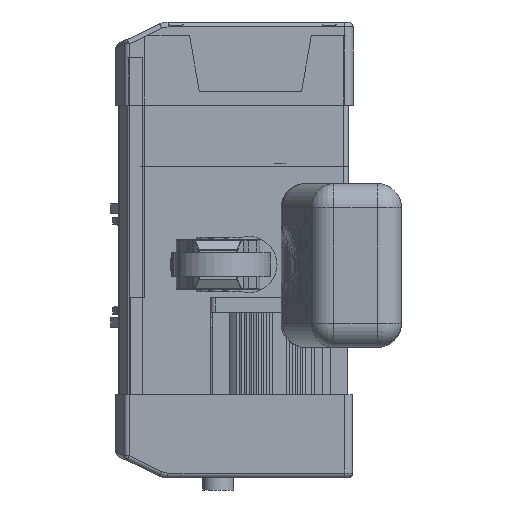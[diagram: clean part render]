
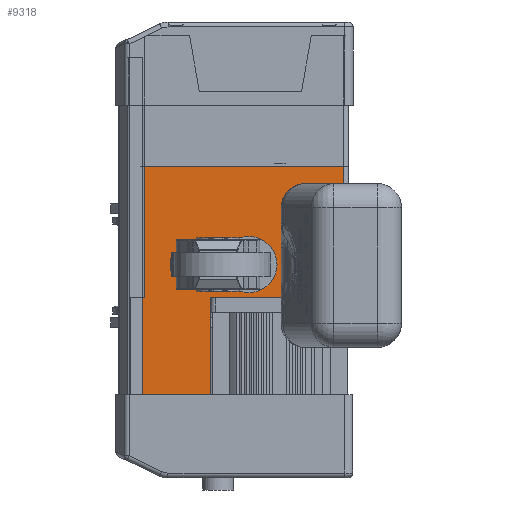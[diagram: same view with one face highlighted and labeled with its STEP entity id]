
A CAD part, front view. The second image highlights one B-rep face of the part: STEP entity #9318.
In plain terms, the highlighted planar face has unit normal (0, -1, 0).
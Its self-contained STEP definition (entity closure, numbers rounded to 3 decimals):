
#905=LINE('',#51660,#3531);
#1083=LINE('',#52080,#3709);
#1596=LINE('',#53557,#4222);
#2062=LINE('',#55354,#4688);
#2138=LINE('',#55659,#4764);
#2194=LINE('',#55955,#4820);
#2195=LINE('',#55956,#4821);
#3531=VECTOR('',#38296,1.);
#3709=VECTOR('',#38540,1.);
#4222=VECTOR('',#39995,1.);
#4688=VECTOR('',#41537,1.);
#4764=VECTOR('',#41835,1.);
#4820=VECTOR('',#42007,1.);
#4821=VECTOR('',#42008,1.);
#5971=B_SPLINE_CURVE_WITH_KNOTS('',3,(#51648,#51649,#51650,#51651),
 .UNSPECIFIED.,.F.,.F.,(4,4),(0.,1.),.UNSPECIFIED.);
#6042=B_SPLINE_CURVE_WITH_KNOTS('',3,(#55921,#55922,#55923,#55924),
 .UNSPECIFIED.,.F.,.F.,(4,4),(0.,1.),.UNSPECIFIED.);
#6044=B_SPLINE_CURVE_WITH_KNOTS('',3,(#55932,#55933,#55934,#55935),
 .UNSPECIFIED.,.F.,.F.,(4,4),(0.,1.),.UNSPECIFIED.);
#9318=ADVANCED_FACE('',(#12070),#10786,.T.);
#10786=PLANE('',#35305);
#12070=FACE_OUTER_BOUND('',#14113,.T.);
#14113=EDGE_LOOP('',(#20532,#20533,#20534,#20535,#20536,#20537,#20538,#20539,
#20540,#20541));
#20532=ORIENTED_EDGE('',*,*,#30121,.T.);
#20533=ORIENTED_EDGE('',*,*,#29253,.F.);
#20534=ORIENTED_EDGE('',*,*,#30203,.T.);
#20535=ORIENTED_EDGE('',*,*,#28580,.T.);
#20536=ORIENTED_EDGE('',*,*,#28370,.T.);
#20537=ORIENTED_EDGE('',*,*,#30204,.F.);
#20538=ORIENTED_EDGE('',*,*,#28365,.T.);
#20539=ORIENTED_EDGE('',*,*,#30191,.T.);
#20540=ORIENTED_EDGE('',*,*,#30194,.T.);
#20541=ORIENTED_EDGE('',*,*,#29986,.T.);
#25010=VERTEX_POINT('',#51634);
#25013=VERTEX_POINT('',#51647);
#25016=VERTEX_POINT('',#51659);
#25017=VERTEX_POINT('',#51661);
#25226=VERTEX_POINT('',#52081);
#25591=VERTEX_POINT('',#53558);
#25592=VERTEX_POINT('',#53559);
#26074=VERTEX_POINT('',#55347);
#26077=VERTEX_POINT('',#55353);
#26218=VERTEX_POINT('',#55925);
#28365=EDGE_CURVE('',#25010,#25013,#5971,.T.);
#28370=EDGE_CURVE('',#25017,#25016,#905,.T.);
#28580=EDGE_CURVE('',#25226,#25017,#1083,.T.);
#29253=EDGE_CURVE('',#25591,#25592,#1596,.T.);
#29986=EDGE_CURVE('',#26074,#26077,#2062,.T.);
#30121=EDGE_CURVE('',#26077,#25592,#2138,.T.);
#30191=EDGE_CURVE('',#25013,#26218,#6042,.T.);
#30194=EDGE_CURVE('',#26218,#26074,#6044,.T.);
#30203=EDGE_CURVE('',#25591,#25226,#2194,.T.);
#30204=EDGE_CURVE('',#25010,#25016,#2195,.T.);
#35305=AXIS2_PLACEMENT_3D('',#55957,#42009,#42010);
#38296=DIRECTION('',(0.,0.,1.));
#38540=DIRECTION('',(1.,0.,0.));
#39995=DIRECTION('',(1.,0.,0.));
#41537=DIRECTION('',(-1.,0.,0.));
#41835=DIRECTION('',(0.,0.,-1.));
#42007=DIRECTION('',(0.,0.,-1.));
#42008=DIRECTION('',(-1.,0.,0.));
#42009=DIRECTION('',(0.,-1.,0.));
#42010=DIRECTION('',(-1.,0.,0.));
#51634=CARTESIAN_POINT('',(-65.001,-738.742,245.927));
#51647=CARTESIAN_POINT('',(65.,-738.742,245.927));
#51648=CARTESIAN_POINT('',(-65.001,-738.742,245.927));
#51649=CARTESIAN_POINT('',(-21.667,-738.742,245.927));
#51650=CARTESIAN_POINT('',(21.666,-738.742,245.927));
#51651=CARTESIAN_POINT('',(65.,-738.742,245.927));
#51659=CARTESIAN_POINT('',(-70.,-738.742,245.927));
#51660=CARTESIAN_POINT('',(-70.,-738.742,186.927));
#51661=CARTESIAN_POINT('',(-70.,-738.742,147.427));
#52080=CARTESIAN_POINT('',(65.,-738.742,147.427));
#52081=CARTESIAN_POINT('',(-139.392,-738.742,147.427));
#53557=CARTESIAN_POINT('',(65.,-738.742,245.927));
#53558=CARTESIAN_POINT('',(-139.392,-738.742,245.927));
#53559=CARTESIAN_POINT('',(-137.,-738.742,245.927));
#55347=CARTESIAN_POINT('',(65.,-738.742,378.927));
#55353=CARTESIAN_POINT('',(-137.,-738.742,378.927));
#55354=CARTESIAN_POINT('',(-579.905,-738.742,378.927));
#55659=CARTESIAN_POINT('',(-137.,-738.742,801.877));
#55921=CARTESIAN_POINT('',(65.,-738.742,245.927));
#55922=CARTESIAN_POINT('',(65.,-738.742,280.927));
#55923=CARTESIAN_POINT('',(65.,-738.742,315.927));
#55924=CARTESIAN_POINT('',(65.,-738.742,350.927));
#55925=CARTESIAN_POINT('',(65.,-738.742,350.927));
#55932=CARTESIAN_POINT('',(65.,-738.742,350.927));
#55933=CARTESIAN_POINT('',(65.,-738.742,360.261));
#55934=CARTESIAN_POINT('',(65.,-738.742,369.594));
#55935=CARTESIAN_POINT('',(65.,-738.742,378.927));
#55955=CARTESIAN_POINT('',(-139.392,-738.742,359.427));
#55956=CARTESIAN_POINT('',(63.,-738.742,245.927));
#55957=CARTESIAN_POINT('',(65.,-738.742,245.927));
